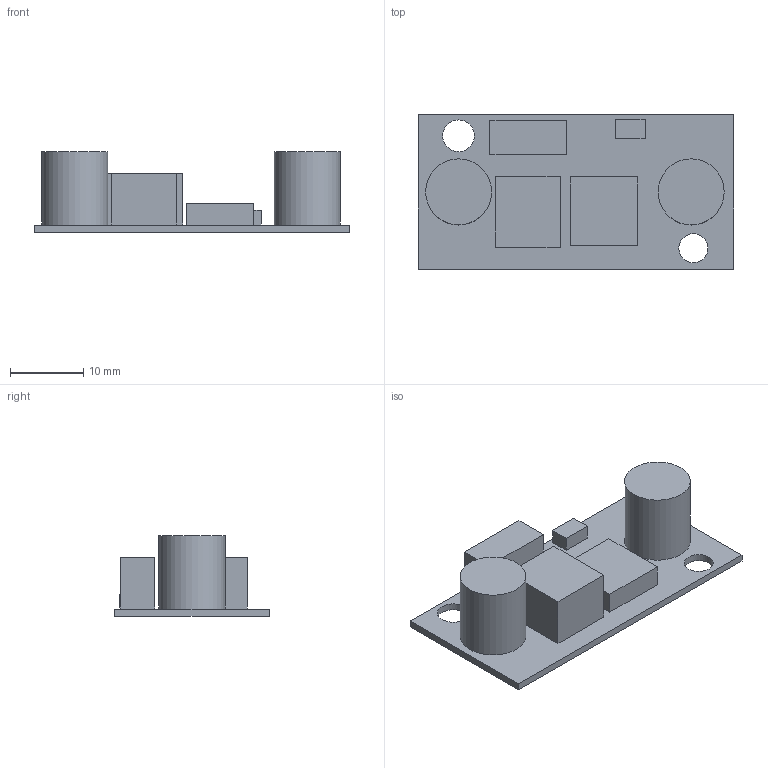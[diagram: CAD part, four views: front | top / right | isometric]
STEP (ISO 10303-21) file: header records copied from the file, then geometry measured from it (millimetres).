
FILE_DESCRIPTION(('FreeCAD Model'),'2;1');
FILE_NAME('Open CASCADE Shape Model','2023-10-13T04:53:55',('Author'),( ''),'Open CASCADE STEP processor 7.5','FreeCAD','Unknown');
FILE_SCHEMA(('AUTOMOTIVE_DESIGN { 1 0 10303 214 1 1 1 1 }'));
Length unit declared in the file: millimetre
Products named in the file (4): DC-DC XL6009E1; Body028; Цилиндр001; Цилиндр002
Assembly tree (3 placements, depth 2):
  DC-DC XL6009E1
    Body028
    Цилиндр001
    Цилиндр002
Bounding box: 43 x 21 x 11 mm (x, y, z)
Volume: 3365.1 mm3; surface area: 3334.3 mm2
Topology: 3 solids, 3 shells, 34 faces, 72 edges, 48 vertices
Faces by surface type: plane 30, cylinder 4
Full cylindrical faces by diameter (mm): 3.968 x1, 4.334 x1, 9 x2
Entity records: 1953 total; most frequent: CARTESIAN_POINT 326, DIRECTION 296, LINE 200, VECTOR 200, ORIENTED_EDGE 144, PCURVE 144, DEFINITIONAL_REPRESENTATION 144, EDGE_CURVE 72
